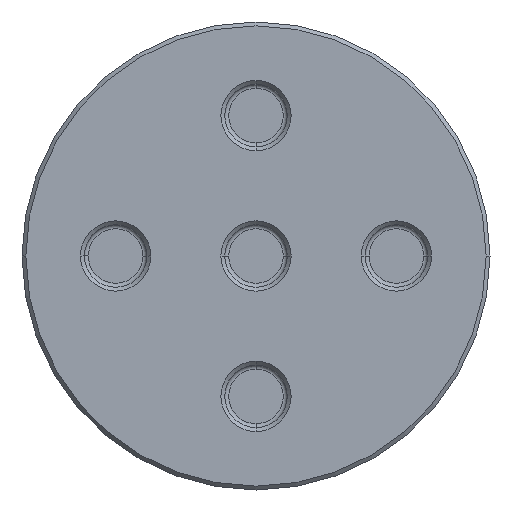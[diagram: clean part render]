
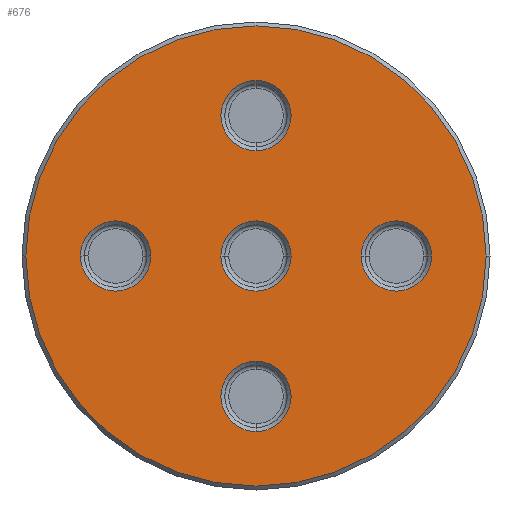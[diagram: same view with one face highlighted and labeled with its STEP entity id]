
A CAD part, left-side view. The second image highlights one B-rep face of the part: STEP entity #676.
In plain terms, the highlighted planar face has unit normal (-1, 0, 0).
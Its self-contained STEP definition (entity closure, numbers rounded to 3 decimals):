
#230=AXIS2_PLACEMENT_3D('Circle Axis2P3D',#228,#229,$) ;
#247=AXIS2_PLACEMENT_3D('Circle Axis2P3D',#245,#246,$) ;
#401=AXIS2_PLACEMENT_3D('Circle Axis2P3D',#399,#400,$) ;
#432=AXIS2_PLACEMENT_3D('Circle Axis2P3D',#430,#431,$) ;
#463=AXIS2_PLACEMENT_3D('Circle Axis2P3D',#461,#462,$) ;
#494=AXIS2_PLACEMENT_3D('Circle Axis2P3D',#492,#493,$) ;
#525=AXIS2_PLACEMENT_3D('Circle Axis2P3D',#523,#524,$) ;
#556=AXIS2_PLACEMENT_3D('Circle Axis2P3D',#554,#555,$) ;
#587=AXIS2_PLACEMENT_3D('Circle Axis2P3D',#585,#586,$) ;
#618=AXIS2_PLACEMENT_3D('Circle Axis2P3D',#616,#617,$) ;
#636=AXIS2_PLACEMENT_3D('Plane Axis2P3D',#633,#634,#635) ;
#644=AXIS2_PLACEMENT_3D('Circle Axis2P3D',#642,#643,$) ;
#653=AXIS2_PLACEMENT_3D('Circle Axis2P3D',#651,#652,$) ;
#218=CARTESIAN_POINT('Vertex',(-15.,38.59,0.)) ;
#225=CARTESIAN_POINT('Vertex',(-15.,-20.41,0.)) ;
#228=CARTESIAN_POINT('Axis2P3D Location',(-15.,9.09,0.)) ;
#245=CARTESIAN_POINT('Axis2P3D Location',(-15.,9.09,0.)) ;
#396=CARTESIAN_POINT('Vertex',(-15.,9.09,-13.5)) ;
#399=CARTESIAN_POINT('Axis2P3D Location',(-15.,9.09,-18.)) ;
#403=CARTESIAN_POINT('Vertex',(-15.,9.09,-22.5)) ;
#430=CARTESIAN_POINT('Axis2P3D Location',(-15.,9.09,-18.)) ;
#458=CARTESIAN_POINT('Vertex',(-15.,22.59,0.)) ;
#461=CARTESIAN_POINT('Axis2P3D Location',(-15.,27.09,0.)) ;
#465=CARTESIAN_POINT('Vertex',(-15.,31.59,0.)) ;
#492=CARTESIAN_POINT('Axis2P3D Location',(-15.,27.09,0.)) ;
#520=CARTESIAN_POINT('Vertex',(-15.,9.09,13.5)) ;
#523=CARTESIAN_POINT('Axis2P3D Location',(-15.,9.09,18.)) ;
#527=CARTESIAN_POINT('Vertex',(-15.,9.09,22.5)) ;
#554=CARTESIAN_POINT('Axis2P3D Location',(-15.,9.09,18.)) ;
#582=CARTESIAN_POINT('Vertex',(-15.,-4.41,0.)) ;
#585=CARTESIAN_POINT('Axis2P3D Location',(-15.,-8.91,0.)) ;
#589=CARTESIAN_POINT('Vertex',(-15.,-13.41,0.)) ;
#616=CARTESIAN_POINT('Axis2P3D Location',(-15.,-8.91,0.)) ;
#633=CARTESIAN_POINT('Axis2P3D Location',(-15.,0.,0.)) ;
#642=CARTESIAN_POINT('Axis2P3D Location',(-15.,9.09,0.)) ;
#646=CARTESIAN_POINT('Vertex',(-15.,4.59,0.)) ;
#648=CARTESIAN_POINT('Vertex',(-15.,13.59,0.)) ;
#651=CARTESIAN_POINT('Axis2P3D Location',(-15.,9.09,0.)) ;
#229=DIRECTION('Axis2P3D Direction',(-1.,0.,0.)) ;
#246=DIRECTION('Axis2P3D Direction',(-1.,0.,0.)) ;
#400=DIRECTION('Axis2P3D Direction',(-1.,0.,0.)) ;
#431=DIRECTION('Axis2P3D Direction',(-1.,-0.,-0.)) ;
#462=DIRECTION('Axis2P3D Direction',(-1.,0.,0.)) ;
#493=DIRECTION('Axis2P3D Direction',(-1.,0.,0.)) ;
#524=DIRECTION('Axis2P3D Direction',(-1.,0.,0.)) ;
#555=DIRECTION('Axis2P3D Direction',(-1.,0.,0.)) ;
#586=DIRECTION('Axis2P3D Direction',(-1.,0.,0.)) ;
#617=DIRECTION('Axis2P3D Direction',(-1.,0.,0.)) ;
#634=DIRECTION('Axis2P3D Direction',(-1.,-0.,0.)) ;
#635=DIRECTION('Axis2P3D XDirection',(0.,-1.,-0.)) ;
#643=DIRECTION('Axis2P3D Direction',(-1.,-0.,0.)) ;
#652=DIRECTION('Axis2P3D Direction',(-1.,-0.,0.)) ;
#639=ORIENTED_EDGE('',*,*,#232,.T.) ;
#640=ORIENTED_EDGE('',*,*,#249,.T.) ;
#657=ORIENTED_EDGE('',*,*,#650,.F.) ;
#658=ORIENTED_EDGE('',*,*,#655,.F.) ;
#661=ORIENTED_EDGE('',*,*,#620,.F.) ;
#662=ORIENTED_EDGE('',*,*,#591,.F.) ;
#665=ORIENTED_EDGE('',*,*,#558,.F.) ;
#666=ORIENTED_EDGE('',*,*,#529,.F.) ;
#669=ORIENTED_EDGE('',*,*,#496,.F.) ;
#670=ORIENTED_EDGE('',*,*,#467,.F.) ;
#673=ORIENTED_EDGE('',*,*,#434,.F.) ;
#674=ORIENTED_EDGE('',*,*,#405,.F.) ;
#659=FACE_BOUND('',#656,.T.) ;
#663=FACE_BOUND('',#660,.T.) ;
#667=FACE_BOUND('',#664,.T.) ;
#671=FACE_BOUND('',#668,.T.) ;
#675=FACE_BOUND('',#672,.T.) ;
#676=ADVANCED_FACE('\X2\51E04F554F53\X0\.2',(#641,#659,#663,#667,#671,#675),#637,.T.) ;
#231=CIRCLE('generated circle',#230,29.5) ;
#248=CIRCLE('generated circle',#247,29.5) ;
#402=CIRCLE('generated circle',#401,4.5) ;
#433=CIRCLE('generated circle',#432,4.5) ;
#464=CIRCLE('generated circle',#463,4.5) ;
#495=CIRCLE('generated circle',#494,4.5) ;
#526=CIRCLE('generated circle',#525,4.5) ;
#557=CIRCLE('generated circle',#556,4.5) ;
#588=CIRCLE('generated circle',#587,4.5) ;
#619=CIRCLE('generated circle',#618,4.5) ;
#645=CIRCLE('generated circle',#644,4.5) ;
#654=CIRCLE('generated circle',#653,4.5) ;
#232=EDGE_CURVE('',#219,#226,#231,.T.) ;
#249=EDGE_CURVE('',#226,#219,#248,.T.) ;
#405=EDGE_CURVE('',#397,#404,#402,.T.) ;
#434=EDGE_CURVE('',#404,#397,#433,.T.) ;
#467=EDGE_CURVE('',#459,#466,#464,.T.) ;
#496=EDGE_CURVE('',#466,#459,#495,.T.) ;
#529=EDGE_CURVE('',#521,#528,#526,.T.) ;
#558=EDGE_CURVE('',#528,#521,#557,.T.) ;
#591=EDGE_CURVE('',#583,#590,#588,.T.) ;
#620=EDGE_CURVE('',#590,#583,#619,.T.) ;
#650=EDGE_CURVE('',#647,#649,#645,.T.) ;
#655=EDGE_CURVE('',#649,#647,#654,.T.) ;
#638=EDGE_LOOP('',(#639,#640)) ;
#656=EDGE_LOOP('',(#657,#658)) ;
#660=EDGE_LOOP('',(#661,#662)) ;
#664=EDGE_LOOP('',(#665,#666)) ;
#668=EDGE_LOOP('',(#669,#670)) ;
#672=EDGE_LOOP('',(#673,#674)) ;
#641=FACE_OUTER_BOUND('',#638,.T.) ;
#637=PLANE('',#636) ;
#219=VERTEX_POINT('',#218) ;
#226=VERTEX_POINT('',#225) ;
#397=VERTEX_POINT('',#396) ;
#404=VERTEX_POINT('',#403) ;
#459=VERTEX_POINT('',#458) ;
#466=VERTEX_POINT('',#465) ;
#521=VERTEX_POINT('',#520) ;
#528=VERTEX_POINT('',#527) ;
#583=VERTEX_POINT('',#582) ;
#590=VERTEX_POINT('',#589) ;
#647=VERTEX_POINT('',#646) ;
#649=VERTEX_POINT('',#648) ;
